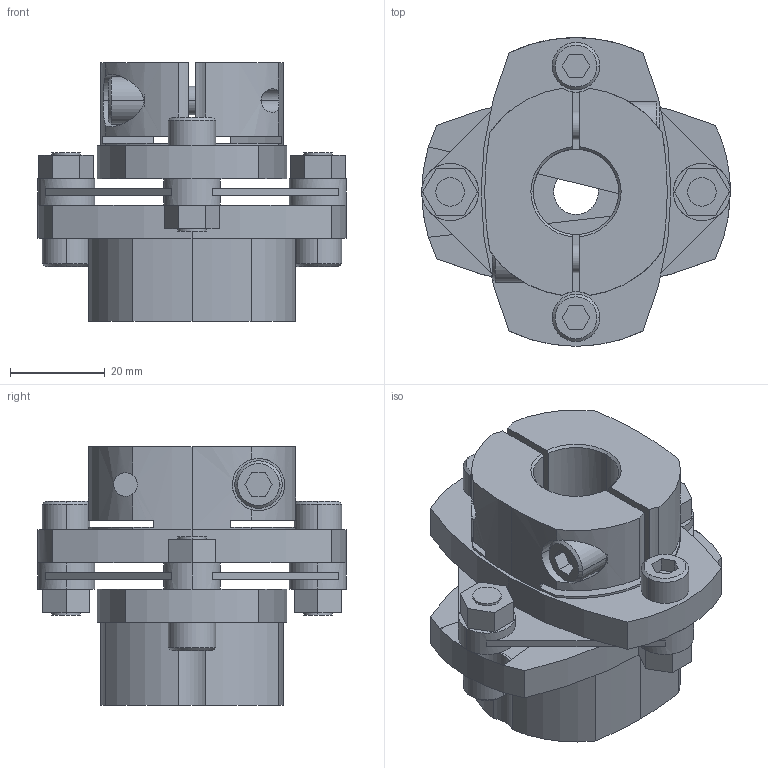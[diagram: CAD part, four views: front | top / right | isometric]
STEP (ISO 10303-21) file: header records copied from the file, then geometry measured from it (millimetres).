
FILE_DESCRIPTION((''),'2;1');
FILE_NAME('LCS-65M-11L亊18B.stp','2011-08-20T15:50:43',(''),(''),'AutoCAD STEP 2000i','AutoCAD 2000i',', , ');
FILE_SCHEMA(('CONFIG_CONTROL_DESIGN'));
Length unit declared in the file: millimetre
Products named in the file (7): LCS-65M-11L×16B; 忣兜1; LC65-B016; LC65M-L011; LC65-B014-1; LC65-B014; LCS65-ITA
Assembly tree (6 placements, depth 2):
  LCS-65M-11L×16B
    忣兜1
    LC65-B016
    LC65M-L011
    LC65-B014-1
    LC65-B014
    LCS65-ITA
Bounding box: 65 x 65 x 54.5 mm (x, y, z)
Volume: 76971.1 mm3; surface area: 26654.8 mm2
Topology: 1 solids, 1 shells, 228 faces, 602 edges, 394 vertices
Faces by surface type: plane 115, cylinder 92, cone 21
Entity records: 7573 total; most frequent: CARTESIAN_POINT 1539, DIRECTION 1288, ORIENTED_EDGE 1204, EDGE_CURVE 602, AXIS2_PLACEMENT_3D 473, VERTEX_POINT 394, VECTOR 342, LINE 342
